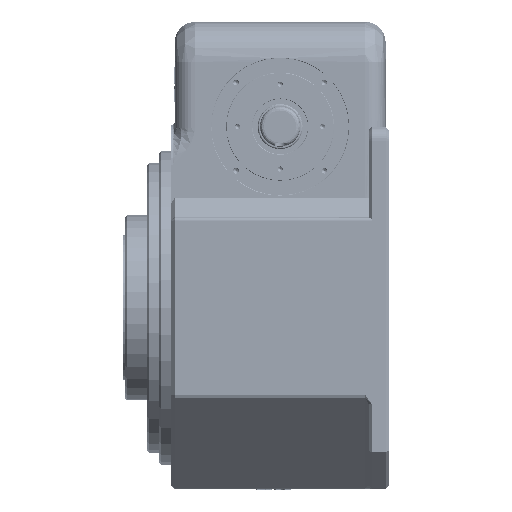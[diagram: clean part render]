
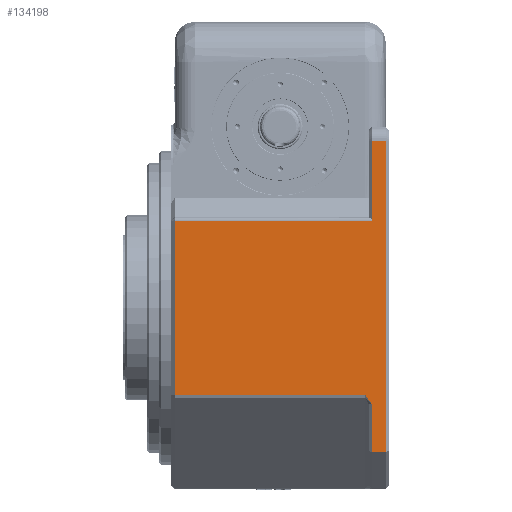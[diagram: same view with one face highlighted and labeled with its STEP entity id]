
A CAD part, left-side view. The second image highlights one B-rep face of the part: STEP entity #134198.
In plain terms, the highlighted planar face has unit normal (-1, 0, 0).
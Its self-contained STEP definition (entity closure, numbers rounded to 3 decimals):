
#4212 = CARTESIAN_POINT ( 'NONE',  ( -450., 42., -359. ) ) ;
#6849 = EDGE_CURVE ( 'NONE', #37827, #164026, #121743, .T. ) ;
#11049 = CARTESIAN_POINT ( 'NONE',  ( -450., 540., -359. ) ) ;
#11278 = VECTOR ( 'NONE', #96075, 1000. ) ;
#11455 = PLANE ( 'NONE',  #171922 ) ;
#13722 = LINE ( 'NONE', #131328, #46087 ) ;
#15680 = LINE ( 'NONE', #25583, #11278 ) ;
#16512 = VECTOR ( 'NONE', #69741, 1000. ) ;
#17722 = EDGE_CURVE ( 'NONE', #164026, #87667, #149106, .T. ) ;
#20745 = LINE ( 'NONE', #55911, #16512 ) ;
#21423 = CARTESIAN_POINT ( 'NONE',  ( -450., 8., 415. ) ) ;
#21647 = DIRECTION ( 'NONE',  ( 0., 0.577, 0.816 ) ) ;
#23273 = ORIENTED_EDGE ( 'NONE', *, *, #74461, .F. ) ;
#23510 = VERTEX_POINT ( 'NONE', #109412 ) ;
#25307 = DIRECTION ( 'NONE',  ( 0., 0., -1. ) ) ;
#25583 = CARTESIAN_POINT ( 'NONE',  ( -450., 42., 710. ) ) ;
#29330 = CARTESIAN_POINT ( 'NONE',  ( -450., 532., 215. ) ) ;
#33201 = CARTESIAN_POINT ( 'NONE',  ( -450., 8., 0. ) ) ;
#35520 = VERTEX_POINT ( 'NONE', #4212 ) ;
#37297 = LINE ( 'NONE', #11049, #106239 ) ;
#37827 = VERTEX_POINT ( 'NONE', #51419 ) ;
#39050 = DIRECTION ( 'NONE',  ( 0., -1., 0. ) ) ;
#42567 = ORIENTED_EDGE ( 'NONE', *, *, #17722, .F. ) ;
#43605 = LINE ( 'NONE', #33201, #149170 ) ;
#46087 = VECTOR ( 'NONE', #21647, 1000. ) ;
#47030 = DIRECTION ( 'NONE',  ( 0., 0., -1. ) ) ;
#50646 = ORIENTED_EDGE ( 'NONE', *, *, #156943, .F. ) ;
#51243 = EDGE_CURVE ( 'NONE', #116801, #35520, #37297, .T. ) ;
#51419 = CARTESIAN_POINT ( 'NONE',  ( -450., 58., -217.686 ) ) ;
#53616 = EDGE_CURVE ( 'NONE', #103941, #116801, #43605, .T. ) ;
#55911 = CARTESIAN_POINT ( 'NONE',  ( -450., 42., 710. ) ) ;
#56574 = VERTEX_POINT ( 'NONE', #160555 ) ;
#58889 = LINE ( 'NONE', #108281, #132141 ) ;
#60568 = ORIENTED_EDGE ( 'NONE', *, *, #73155, .F. ) ;
#60679 = FACE_OUTER_BOUND ( 'NONE', #62787, .T. ) ;
#60881 = ORIENTED_EDGE ( 'NONE', *, *, #170201, .F. ) ;
#62004 = DIRECTION ( 'NONE',  ( 0., 0., 1. ) ) ;
#62787 = EDGE_LOOP ( 'NONE', ( #60568, #23273, #152463, #163409, #60881, #96993, #50646, #42567, #142007 ) ) ;
#62878 = VERTEX_POINT ( 'NONE', #132218 ) ;
#69741 = DIRECTION ( 'NONE',  ( 0., 0., 1. ) ) ;
#73155 = EDGE_CURVE ( 'NONE', #62878, #37827, #13722, .T. ) ;
#74461 = EDGE_CURVE ( 'NONE', #35520, #62878, #15680, .T. ) ;
#76036 = DIRECTION ( 'NONE',  ( 0., 1., 0. ) ) ;
#79678 = VECTOR ( 'NONE', #144756, 1000. ) ;
#87667 = VERTEX_POINT ( 'NONE', #29330 ) ;
#96075 = DIRECTION ( 'NONE',  ( 0., 0., 1. ) ) ;
#96993 = ORIENTED_EDGE ( 'NONE', *, *, #161869, .F. ) ;
#103178 = CARTESIAN_POINT ( 'NONE',  ( -450., 540., 215. ) ) ;
#103941 = VERTEX_POINT ( 'NONE', #21423 ) ;
#104112 = CARTESIAN_POINT ( 'NONE',  ( -450., 540., -217.686 ) ) ;
#106239 = VECTOR ( 'NONE', #107467, 1000. ) ;
#107467 = DIRECTION ( 'NONE',  ( 0., 1., 0. ) ) ;
#107845 = DIRECTION ( 'NONE',  ( 1., 0., 0. ) ) ;
#108281 = CARTESIAN_POINT ( 'NONE',  ( -450., 540., 415. ) ) ;
#109412 = CARTESIAN_POINT ( 'NONE',  ( -450., 42., 415. ) ) ;
#116334 = LINE ( 'NONE', #103178, #79678 ) ;
#116801 = VERTEX_POINT ( 'NONE', #138862 ) ;
#117383 = CARTESIAN_POINT ( 'NONE',  ( -450., 532., -217.686 ) ) ;
#121743 = LINE ( 'NONE', #104112, #154097 ) ;
#131328 = CARTESIAN_POINT ( 'NONE',  ( -450., 42., -240.314 ) ) ;
#132141 = VECTOR ( 'NONE', #39050, 1000. ) ;
#132218 = CARTESIAN_POINT ( 'NONE',  ( -450., 42., -240.314 ) ) ;
#134198 = ADVANCED_FACE ( 'NONE', ( #60679 ), #11455, .F. ) ;
#138862 = CARTESIAN_POINT ( 'NONE',  ( -450., 8., -359. ) ) ;
#142007 = ORIENTED_EDGE ( 'NONE', *, *, #6849, .F. ) ;
#144756 = DIRECTION ( 'NONE',  ( 0., -1., 0. ) ) ;
#149106 = LINE ( 'NONE', #172204, #153441 ) ;
#149170 = VECTOR ( 'NONE', #47030, 1000. ) ;
#152463 = ORIENTED_EDGE ( 'NONE', *, *, #51243, .F. ) ;
#153441 = VECTOR ( 'NONE', #62004, 1000. ) ;
#154097 = VECTOR ( 'NONE', #76036, 1000. ) ;
#156943 = EDGE_CURVE ( 'NONE', #87667, #56574, #116334, .T. ) ;
#160555 = CARTESIAN_POINT ( 'NONE',  ( -450., 42., 215. ) ) ;
#161869 = EDGE_CURVE ( 'NONE', #56574, #23510, #20745, .T. ) ;
#162688 = CARTESIAN_POINT ( 'NONE',  ( -450., 540., 710. ) ) ;
#163409 = ORIENTED_EDGE ( 'NONE', *, *, #53616, .F. ) ;
#164026 = VERTEX_POINT ( 'NONE', #117383 ) ;
#170201 = EDGE_CURVE ( 'NONE', #23510, #103941, #58889, .T. ) ;
#171922 = AXIS2_PLACEMENT_3D ( 'NONE', #162688, #107845, #25307 ) ;
#172204 = CARTESIAN_POINT ( 'NONE',  ( -450., 532., 710. ) ) ;
